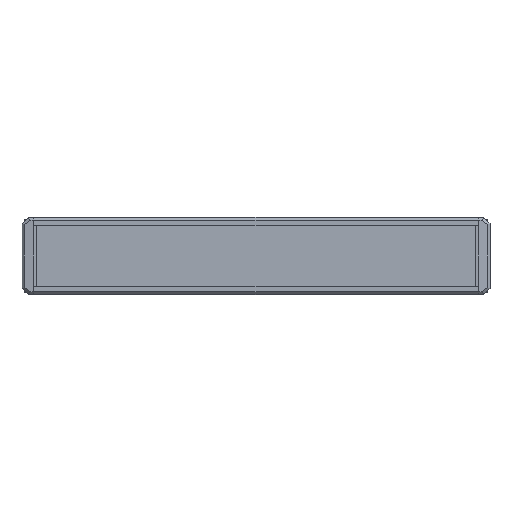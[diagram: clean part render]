
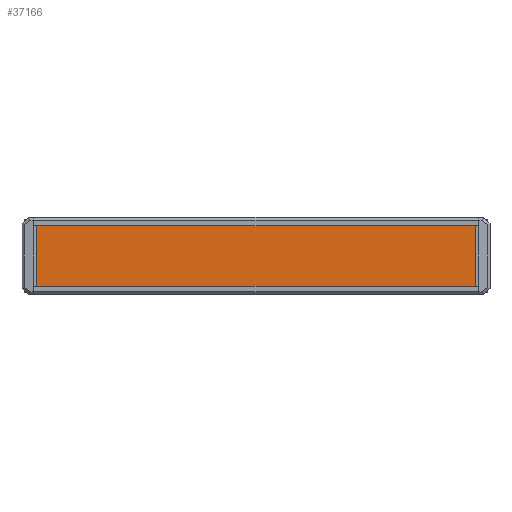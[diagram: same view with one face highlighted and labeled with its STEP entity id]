
A CAD part, front view. The second image highlights one B-rep face of the part: STEP entity #37166.
In plain terms, the highlighted planar face has unit normal (0, -1, 0) as drawn and (0, 1, 0) by its records, which use the part's own axes.
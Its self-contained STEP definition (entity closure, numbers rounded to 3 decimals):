
#37022=DIRECTION('',(-1.,0.,0.));
#37023=VECTOR('',#37022,34.6);
#37024=CARTESIAN_POINT('',(17.3,2.,-115.6));
#37025=LINE('',#37024,#37023);
#37043=DIRECTION('',(0.,0.,1.));
#37044=VECTOR('',#37043,231.2);
#37045=CARTESIAN_POINT('',(-17.3,2.,-115.6));
#37046=LINE('',#37045,#37044);
#37050=DIRECTION('',(0.,0.,1.));
#37051=VECTOR('',#37050,231.2);
#37052=CARTESIAN_POINT('',(17.3,2.,-115.6));
#37053=LINE('',#37052,#37051);
#37078=DIRECTION('',(-1.,0.,0.));
#37079=VECTOR('',#37078,34.6);
#37080=CARTESIAN_POINT('',(17.3,2.,115.6));
#37081=LINE('',#37080,#37079);
#37096=CARTESIAN_POINT('',(17.3,2.,-115.6));
#37097=VERTEX_POINT('',#37096);
#37098=CARTESIAN_POINT('',(-17.3,2.,-115.6));
#37099=VERTEX_POINT('',#37098);
#37104=CARTESIAN_POINT('',(17.3,2.,115.6));
#37105=VERTEX_POINT('',#37104);
#37106=CARTESIAN_POINT('',(-17.3,2.,115.6));
#37107=VERTEX_POINT('',#37106);
#37153=CARTESIAN_POINT('',(17.3,2.,-115.6));
#37154=DIRECTION('',(0.,1.,0.));
#37155=DIRECTION('',(-1.,0.,0.));
#37156=AXIS2_PLACEMENT_3D('',#37153,#37154,#37155);
#37157=PLANE('',#37156);
#37158=ORIENTED_EDGE('',*,*,#37117,.F.);
#37160=ORIENTED_EDGE('',*,*,#37159,.T.);
#37162=ORIENTED_EDGE('',*,*,#37161,.T.);
#37163=ORIENTED_EDGE('',*,*,#37145,.F.);
#37164=EDGE_LOOP('',(#37158,#37160,#37162,#37163));
#37165=FACE_OUTER_BOUND('',#37164,.F.);
#37117=EDGE_CURVE('',#37097,#37099,#37025,.T.);
#37145=EDGE_CURVE('',#37099,#37107,#37046,.T.);
#37159=EDGE_CURVE('',#37097,#37105,#37053,.T.);
#37161=EDGE_CURVE('',#37105,#37107,#37081,.T.);
#37166=ADVANCED_FACE('',(#37165),#37157,.T.);
